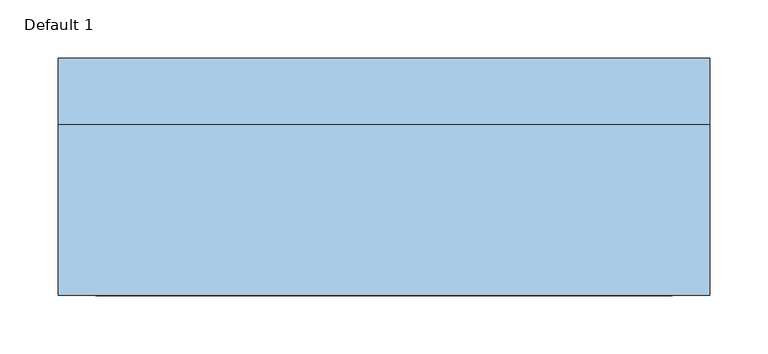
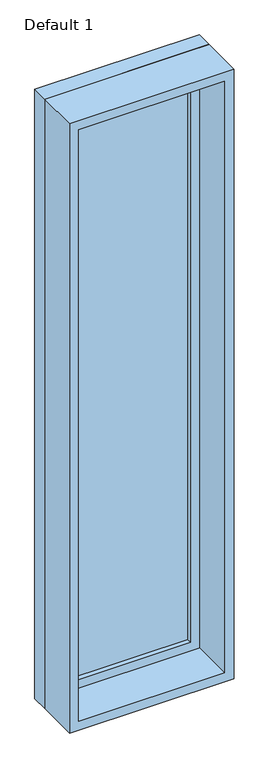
"""IFC4 building model written with IfcOpenShell, lengths in millimetres: window geometry, Planitar-Fixed : Default 1."""

from ifc_helpers import new_model, si_unit, frame, origin, place, context, project, spatial, polyline, outline, extrude, source, transform, mapped, element, save


def default_1_a06c236a(model_context):
    return source(origin(), model_context, "Body", "SweptSolid", [
        extrude(outline(polyline([(3079.8, -260.4), (933.4, -260.4), (933.4, 260.4), (3079.8, 260.4), (3079.8, -260.4)]), holes=[polyline([(3035.8, -216.4), (3035.8, 216.4), (977.4, 216.4), (977.4, -216.4), (3035.8, -216.4)])]), frame((0.0, 57.9, 0.0), z_axis=(0.0, 1.0, 0.0), x_axis=(0.0, 0.0, 1.0)), (0.0, 0.0, 1.0), 44.0),
        extrude(outline(polyline([(3098.8, -279.4), (914.4, -279.4), (914.4, 279.4), (3098.8, 279.4), (3098.8, -279.4)]), holes=[polyline([(3079.8, -260.4), (3079.8, 260.4), (933.4, 260.4), (933.4, -260.4), (3079.8, -260.4)])]), frame((0.0, 57.9, 0.0), z_axis=(0.0, 1.0, 0.0), x_axis=(0.0, 0.0, 1.0)), (0.0, 0.0, 1.0), 56.7),
        extrude(outline(polyline([(3098.8, -279.4), (914.4, -279.4), (914.4, 279.4), (3098.8, 279.4), (3098.8, -279.4)]), holes=[polyline([(3066.8, -247.4), (3066.8, 247.4), (946.4, 247.4), (946.4, -247.4), (3066.8, -247.4)])]), frame((0.0, -88.6, 0.0), z_axis=(0.0, 1.0, 0.0), x_axis=(0.0, 0.0, 1.0)), (0.0, 0.0, 1.0), 146.5),
        extrude(outline(polyline([(-216.4, 85.9), (216.4, 85.9), (216.4, 73.9), (-216.4, 73.9), (-216.4, 85.9)])), frame((0.0, 0.0, 977.4), z_axis=(0.0, 0.0, 1.0), x_axis=(1.0, 0.0, 0.0)), (0.0, 0.0, 1.0), 2058.4),
    ])


if __name__ == "__main__":
    model = new_model("IFC4")
    model_context = context("Model", 3, world=origin())
    ifc_project = project(units=[si_unit("LENGTHUNIT", "METRE", prefix="MILLI")], contexts=[model_context])
    site = spatial("IfcSite", under=ifc_project)
    building = spatial("IfcBuilding", under=site)
    placement = place(None, origin())
    default_1_shape = default_1_a06c236a(model_context)
    element("IfcWindow", 1, ObjectType="Planitar-Fixed : Default 1", at=placement, inside=building, context=model_context, shape_type="MappedRepresentation", body=[
        mapped(default_1_shape, transform((0.0, 0.0, 0.0), x_axis=(1.0, 0.0, 0.0), y_axis=(0.0, 1.0, 0.0), z_axis=(0.0, 0.0, 1.0))),
    ])
    save(model, "model.ifc")
